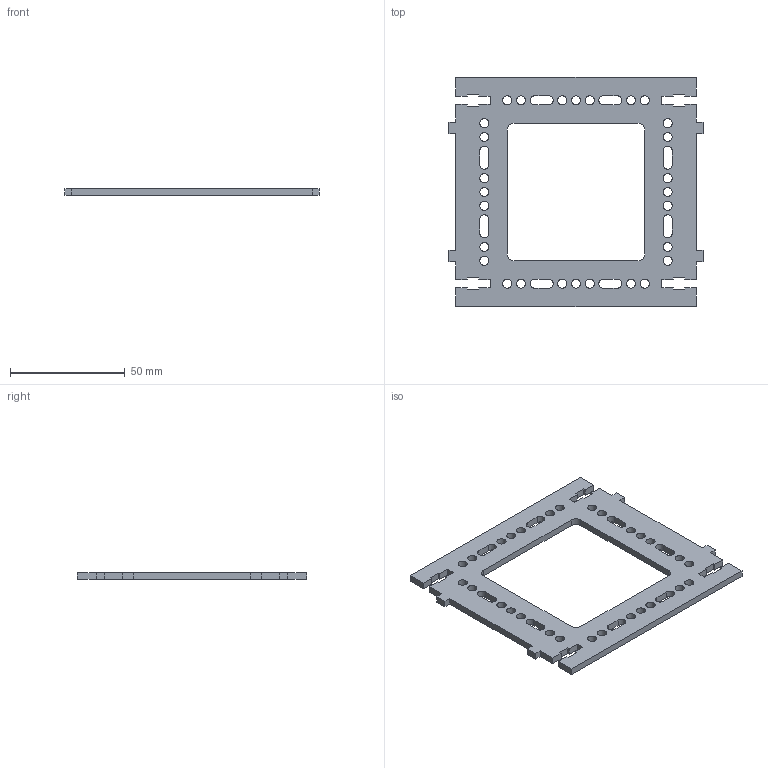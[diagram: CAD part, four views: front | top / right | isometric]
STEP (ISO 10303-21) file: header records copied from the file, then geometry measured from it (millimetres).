
FILE_DESCRIPTION(/* description */ ('Unknown'),/* implementation_level */ '2;1');
FILE_NAME(/* name */ 'PSM03',/* time_stamp */ '2025-10-07T10:37:21+02:00',/* author */ ('Unknown'),/* organization */ ('Unknown'),/* preprocessor_version */ 'ST-DEVELOPER v19.4',/* originating_system */ 'Solid Edge',/* authorisation */ 'Unknown');
FILE_SCHEMA (('AUTOMOTIVE_DESIGN {1 0 10303 214 3 1 1}'));
Length unit declared in the file: millimetre
Products named in the file (1): PSM03
Bounding box: 111 x 100 x 3 mm (x, y, z)
Volume: 18238 mm3; surface area: 16211.2 mm2
Topology: 1 solids, 1 shells, 138 faces, 424 edges, 288 vertices
Faces by surface type: plane 90, cylinder 48
Full cylindrical faces by diameter (mm): 4 x28
Entity records: 4646 total; most frequent: CARTESIAN_POINT 791, ORIENTED_EDGE 760, DIRECTION 754, EDGE_CURVE 380, LINE 284, VECTOR 284, VERTEX_POINT 272, EDGE_LOOP 240
